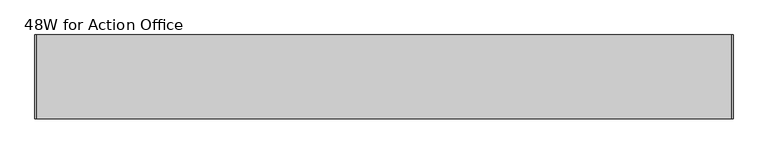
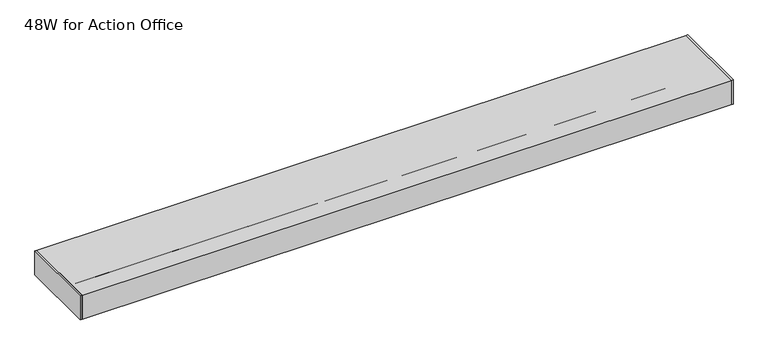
"""IFC4 building model written with IfcOpenShell, lengths in millimetres: light fixture geometry, HermanMiller_SupplementalProducts_G6170_EUnderShelfLEDTaskLight : 48W for Action Office."""

from ifc_helpers import new_model, si_unit, point, frame, frame_2d, origin, place, context, project, spatial, polyline, circle_curve, trimmed, segment, composite_curve, outline, extrude, source, transform, mapped, element, save


def light_fixture_48w_for_action_office_390cad34(model_context):
    return source(origin(), model_context, "Body", "SweptSolid", [
        extrude(outline(composite_curve([segment(trimmed(circle_curve(frame_2d((-4.699, 1336.1304666)), 9.525), [point((-14.224, 1336.1304666))], [point((4.826, 1336.1304666))], False, "CARTESIAN"), True, "CONTINUOUS"), segment(trimmed(circle_curve(frame_2d((-4.699, 1336.1304666)), 9.525), [point((4.826, 1336.1304666))], [point((-14.224, 1336.1304666))], False, "CARTESIAN"), True, "CONTINUOUS")], self_intersect=False)), frame((542.925, 0.0, 0.0), z_axis=(1.0, 0.0, 0.0), x_axis=(0.0, 1.0, 0.0)), (0.0, 0.0, 1.0), 12.7),
        extrude(outline(composite_curve([segment(trimmed(circle_curve(frame_2d((-4.699, 1336.1304666)), 9.525), [point((-14.224, 1336.1304666))], [point((4.826, 1336.1304666))], False, "CARTESIAN"), True, "CONTINUOUS"), segment(trimmed(circle_curve(frame_2d((-4.699, 1336.1304666)), 9.525), [point((4.826, 1336.1304666))], [point((-14.224, 1336.1304666))], False, "CARTESIAN"), True, "CONTINUOUS")], self_intersect=False)), frame((-555.625, 0.0, 0.0), z_axis=(1.0, 0.0, 0.0), x_axis=(0.0, 1.0, 0.0)), (0.0, 0.0, 1.0), 12.7),
        extrude(outline(composite_curve([segment(trimmed(circle_curve(frame_2d((-4.699, 1336.1304666)), 9.525), [point((-14.224, 1336.1304666))], [point((4.826, 1336.1304666))], False, "CARTESIAN"), True, "CONTINUOUS"), segment(trimmed(circle_curve(frame_2d((-4.699, 1336.1304666)), 9.525), [point((4.826, 1336.1304666))], [point((-14.224, 1336.1304666))], False, "CARTESIAN"), True, "CONTINUOUS")], self_intersect=False)), frame((-542.925, 0.0, 0.0), z_axis=(1.0, 0.0, 0.0), x_axis=(0.0, 1.0, 0.0)), (0.0, 0.0, 1.0), 1085.85),
        extrude(outline(polyline([(565.15, 68.326), (565.15, -68.326), (-565.15, -68.326), (-565.15, 68.326), (565.15, 68.326)])), frame((0.0, 0.0, 1305.9679666), z_axis=(0.0, 0.0, 1.0), x_axis=(1.0, 0.0, 0.0)), (0.0, 0.0, 1.0), 44.45),
        extrude(outline(polyline([(565.15, -68.326), (565.15, 68.326), (568.325, 68.326), (568.325, -68.326), (565.15, -68.326)])), frame((0.0, 0.0, 1305.9679666), z_axis=(0.0, 0.0, 1.0), x_axis=(1.0, 0.0, 0.0)), (0.0, 0.0, 1.0), 44.45),
        extrude(outline(polyline([(-565.15, 68.326), (-565.15, -68.326), (-568.325, -68.326), (-568.325, 68.326), (-565.15, 68.326)])), frame((0.0, 0.0, 1305.9679666), z_axis=(0.0, 0.0, 1.0), x_axis=(1.0, 0.0, 0.0)), (0.0, 0.0, 1.0), 44.45),
    ])


if __name__ == "__main__":
    model = new_model("IFC4")
    model_context = context("Model", 3, world=origin())
    ifc_project = project(units=[si_unit("LENGTHUNIT", "METRE", prefix="MILLI")], contexts=[model_context])
    site = spatial("IfcSite", under=ifc_project)
    building = spatial("IfcBuilding", under=site)
    placement = place(None, origin())
    light_fixture_48w_for_action_office_shape = light_fixture_48w_for_action_office_390cad34(model_context)
    element("IfcLightFixture", 1, ObjectType="HermanMiller_SupplementalProducts_G6170_EUnderShelfLEDTaskLight : 48W for Action Office", at=placement, inside=building, context=model_context, shape_type="MappedRepresentation", body=[
        mapped(light_fixture_48w_for_action_office_shape, transform((0.0, 0.0, 0.0), x_axis=(1.0, 0.0, 0.0), y_axis=(0.0, 1.0, 0.0), z_axis=(0.0, 0.0, 1.0))),
    ])
    save(model, "model.ifc")
